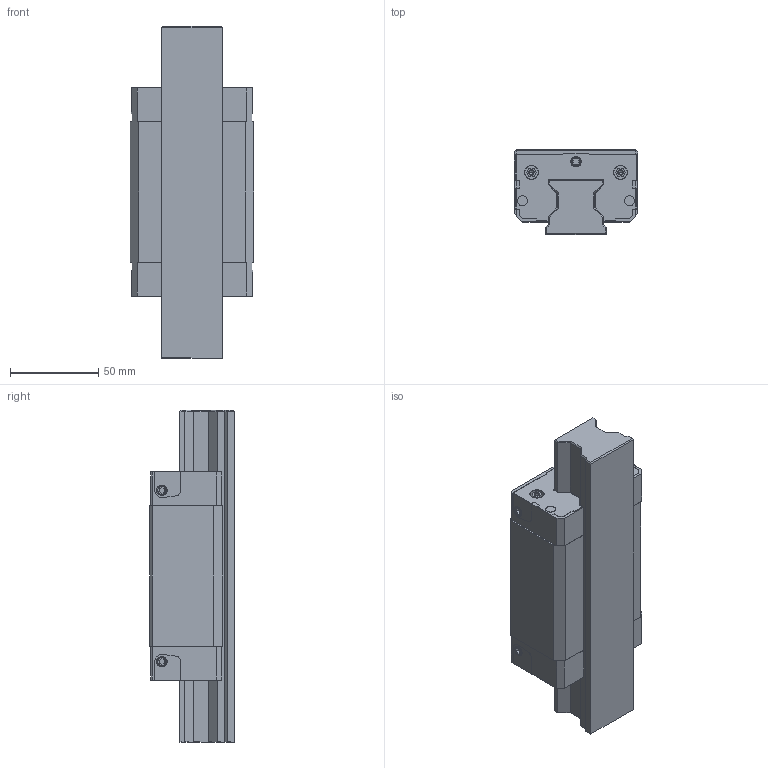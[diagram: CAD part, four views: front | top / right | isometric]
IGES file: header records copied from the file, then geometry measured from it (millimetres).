
Start section: 3D InterOp IGES (v. 2019 1.0.2), Spatial Corp. Copyright (c) 1999-2017.
Global section: file name: R1822_size35.igs; native system: Spatial Corp.; preprocessor: 3D InterOp GENERIC/IGES 3.0; author: Noname; organization: Noname; date: 20220630.112854; units: millimetre
Bounding box: 70 x 47.98 x 187.6 mm (x, y, z)
Surface area: 88091.8 mm2 (no closed solid volume)
Topology: 0 solids, 0 shells, 518 faces, 2688 edges, 2660 vertices
Faces by surface type: extrusion 322, revolution 196
